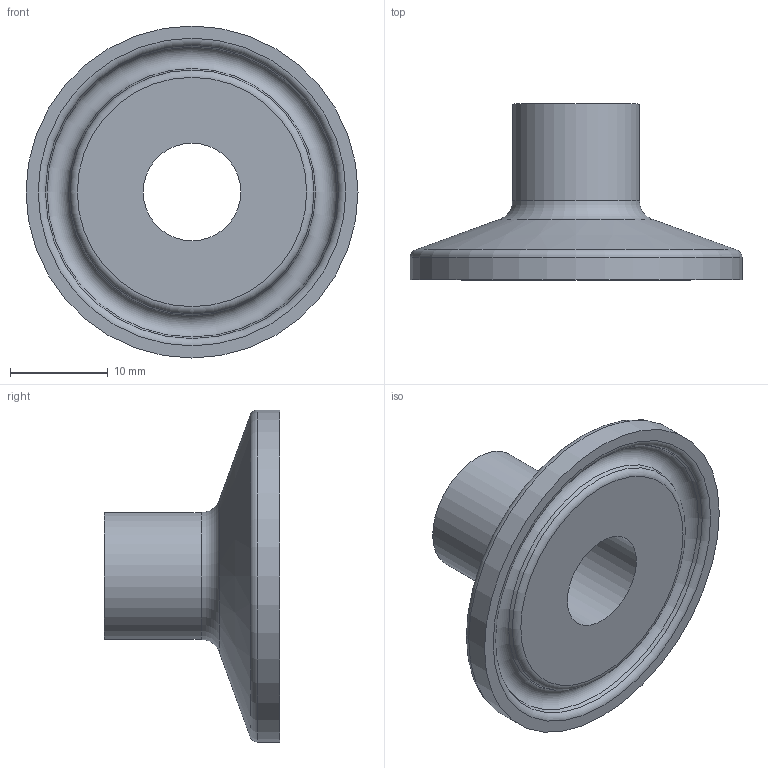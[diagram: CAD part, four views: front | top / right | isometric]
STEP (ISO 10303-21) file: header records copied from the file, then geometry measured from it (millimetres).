
FILE_DESCRIPTION(('Ferrule_13x1,5_L18_FL34_V12'),'2;1');
FILE_NAME('Ferrule_13x1,5_L18_FL34_V12.stp','2013-11-03T13:41:08',('DOCKWEILER AG'),('DOCKWEILER AG'),'Autodesk Inventor 2012','Autodesk Inventor 2012','');
FILE_SCHEMA(('CONFIG_CONTROL_DESIGN'));
Length unit declared in the file: millimetre
Products named in the file (1): N0003_003_001
Bounding box: 34 x 18 x 34 mm (x, y, z)
Volume: 4151.8 mm3; surface area: 3141.9 mm2
Topology: 1 solids, 1 shells, 14 faces, 25 edges, 14 vertices
Faces by surface type: torus 5, plane 3, cylinder 3, cone 3
Full cylindrical faces by diameter (mm): 10 x1, 13 x1, 34 x1
Entity records: 314 total; most frequent: DIRECTION 58, CARTESIAN_POINT 43, AXIS2_PLACEMENT_3D 29, ORIENTED_EDGE 28, EDGE_LOOP 28, VERTEX_POINT 14, CIRCLE 14, EDGE_CURVE 14
